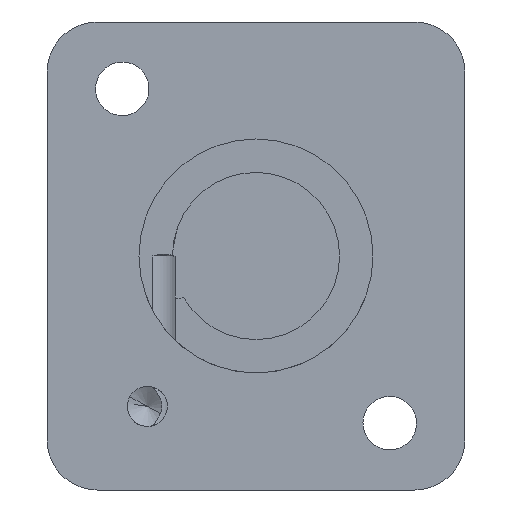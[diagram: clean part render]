
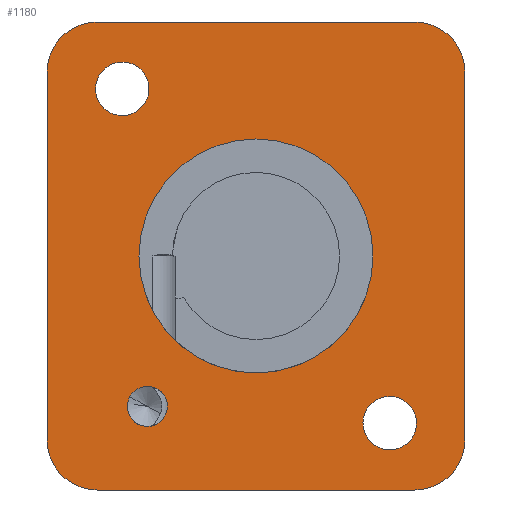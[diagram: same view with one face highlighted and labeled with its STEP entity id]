
A CAD part, left-side view. The second image highlights one B-rep face of the part: STEP entity #1180.
In plain terms, the highlighted planar face has unit normal (-1, 0, 0).
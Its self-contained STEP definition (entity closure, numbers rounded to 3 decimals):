
#369=AXIS2_PLACEMENT_3D('Circle Axis2P3D',#367,#368,$) ;
#454=AXIS2_PLACEMENT_3D('Circle Axis2P3D',#452,#453,$) ;
#542=AXIS2_PLACEMENT_3D('Circle Axis2P3D',#540,#541,$) ;
#878=AXIS2_PLACEMENT_3D('Circle Axis2P3D',#876,#877,$) ;
#947=AXIS2_PLACEMENT_3D('Circle Axis2P3D',#945,#946,$) ;
#1009=AXIS2_PLACEMENT_3D('Circle Axis2P3D',#1007,#1008,$) ;
#1071=AXIS2_PLACEMENT_3D('Circle Axis2P3D',#1069,#1070,$) ;
#1133=AXIS2_PLACEMENT_3D('Plane Axis2P3D',#1130,#1131,#1132) ;
#1147=AXIS2_PLACEMENT_3D('Circle Axis2P3D',#1145,#1146,$) ;
#1156=AXIS2_PLACEMENT_3D('Circle Axis2P3D',#1154,#1155,$) ;
#1165=AXIS2_PLACEMENT_3D('Circle Axis2P3D',#1163,#1164,$) ;
#364=CARTESIAN_POINT('Vertex',(0.,7.553,-8.425)) ;
#367=CARTESIAN_POINT('Axis2P3D Location',(0.,6.5,-9.)) ;
#371=CARTESIAN_POINT('Vertex',(0.,5.447,-9.575)) ;
#393=CARTESIAN_POINT('Control Point',(0.,9.404,9.233)) ;
#394=CARTESIAN_POINT('Control Point',(0.,9.163,8.792)) ;
#395=CARTESIAN_POINT('Control Point',(0.,8.749,8.445)) ;
#396=CARTESIAN_POINT('Control Point',(0.,8.21,8.287)) ;
#397=CARTESIAN_POINT('Control Point',(0.,7.138,8.423)) ;
#398=CARTESIAN_POINT('Control Point',(0.,6.445,9.251)) ;
#399=CARTESIAN_POINT('Control Point',(0.,6.287,9.79)) ;
#400=CARTESIAN_POINT('Control Point',(0.,6.355,10.326)) ;
#401=CARTESIAN_POINT('Control Point',(0.,6.596,10.767)) ;
#402=CARTESIAN_POINT('Vertex',(0.,6.596,10.767)) ;
#404=CARTESIAN_POINT('Vertex',(0.,9.404,9.233)) ;
#452=CARTESIAN_POINT('Axis2P3D Location',(0.,8.,10.)) ;
#482=CARTESIAN_POINT('Control Point',(0.,-6.596,-10.767)) ;
#483=CARTESIAN_POINT('Control Point',(0.,-6.837,-11.208)) ;
#484=CARTESIAN_POINT('Control Point',(0.,-7.251,-11.555)) ;
#485=CARTESIAN_POINT('Control Point',(0.,-7.79,-11.713)) ;
#486=CARTESIAN_POINT('Control Point',(0.,-8.862,-11.577)) ;
#487=CARTESIAN_POINT('Control Point',(0.,-9.555,-10.749)) ;
#488=CARTESIAN_POINT('Control Point',(0.,-9.713,-10.21)) ;
#489=CARTESIAN_POINT('Control Point',(0.,-9.645,-9.674)) ;
#490=CARTESIAN_POINT('Control Point',(0.,-9.404,-9.233)) ;
#491=CARTESIAN_POINT('Vertex',(0.,-9.404,-9.233)) ;
#493=CARTESIAN_POINT('Vertex',(0.,-6.596,-10.767)) ;
#540=CARTESIAN_POINT('Axis2P3D Location',(0.,-8.,-10.)) ;
#873=CARTESIAN_POINT('Vertex',(0.,-12.5,-11.)) ;
#876=CARTESIAN_POINT('Axis2P3D Location',(0.,-9.5,-11.)) ;
#880=CARTESIAN_POINT('Vertex',(0.,-9.5,-14.)) ;
#911=CARTESIAN_POINT('Vertex',(0.,-12.5,11.)) ;
#914=CARTESIAN_POINT('Line Origine',(0.,-12.5,0.)) ;
#942=CARTESIAN_POINT('Vertex',(0.,-9.5,14.)) ;
#945=CARTESIAN_POINT('Axis2P3D Location',(0.,-9.5,11.)) ;
#973=CARTESIAN_POINT('Vertex',(0.,9.5,14.)) ;
#976=CARTESIAN_POINT('Line Origine',(0.,0.,14.)) ;
#1004=CARTESIAN_POINT('Vertex',(0.,12.5,11.)) ;
#1007=CARTESIAN_POINT('Axis2P3D Location',(0.,9.5,11.)) ;
#1035=CARTESIAN_POINT('Vertex',(0.,12.5,-11.)) ;
#1038=CARTESIAN_POINT('Line Origine',(0.,12.5,0.)) ;
#1066=CARTESIAN_POINT('Vertex',(0.,9.5,-14.)) ;
#1069=CARTESIAN_POINT('Axis2P3D Location',(0.,9.5,-11.)) ;
#1093=CARTESIAN_POINT('Line Origine',(0.,0.,-14.)) ;
#1130=CARTESIAN_POINT('Axis2P3D Location',(0.,0.,0.)) ;
#1145=CARTESIAN_POINT('Axis2P3D Location',(0.,6.5,-9.)) ;
#1154=CARTESIAN_POINT('Axis2P3D Location',(0.,0.,0.)) ;
#1158=CARTESIAN_POINT('Vertex',(0.,7.,0.)) ;
#1160=CARTESIAN_POINT('Vertex',(0.,-7.,0.)) ;
#1163=CARTESIAN_POINT('Axis2P3D Location',(0.,0.,0.)) ;
#368=DIRECTION('Axis2P3D Direction',(1.,0.,-0.)) ;
#453=DIRECTION('Axis2P3D Direction',(-1.,0.,-0.)) ;
#541=DIRECTION('Axis2P3D Direction',(-1.,0.,-0.)) ;
#877=DIRECTION('Axis2P3D Direction',(1.,0.,0.)) ;
#915=DIRECTION('Vector Direction',(0.,0.,1.)) ;
#946=DIRECTION('Axis2P3D Direction',(1.,0.,-0.)) ;
#977=DIRECTION('Vector Direction',(0.,1.,0.)) ;
#1008=DIRECTION('Axis2P3D Direction',(1.,-0.,0.)) ;
#1039=DIRECTION('Vector Direction',(0.,0.,-1.)) ;
#1070=DIRECTION('Axis2P3D Direction',(1.,0.,0.)) ;
#1094=DIRECTION('Vector Direction',(0.,-1.,0.)) ;
#1131=DIRECTION('Axis2P3D Direction',(1.,0.,0.)) ;
#1132=DIRECTION('Axis2P3D XDirection',(0.,1.,0.)) ;
#1146=DIRECTION('Axis2P3D Direction',(1.,0.,0.)) ;
#1155=DIRECTION('Axis2P3D Direction',(1.,0.,0.)) ;
#1164=DIRECTION('Axis2P3D Direction',(1.,0.,0.)) ;
#916=VECTOR('Line Direction',#915,1.) ;
#978=VECTOR('Line Direction',#977,1.) ;
#1040=VECTOR('Line Direction',#1039,1.) ;
#1095=VECTOR('Line Direction',#1094,1.) ;
#1136=ORIENTED_EDGE('',*,*,#882,.F.) ;
#1137=ORIENTED_EDGE('',*,*,#918,.F.) ;
#1138=ORIENTED_EDGE('',*,*,#949,.F.) ;
#1139=ORIENTED_EDGE('',*,*,#980,.F.) ;
#1140=ORIENTED_EDGE('',*,*,#1011,.F.) ;
#1141=ORIENTED_EDGE('',*,*,#1042,.F.) ;
#1142=ORIENTED_EDGE('',*,*,#1073,.F.) ;
#1143=ORIENTED_EDGE('',*,*,#1097,.F.) ;
#1151=ORIENTED_EDGE('',*,*,#373,.T.) ;
#1152=ORIENTED_EDGE('',*,*,#1149,.T.) ;
#1169=ORIENTED_EDGE('',*,*,#1162,.T.) ;
#1170=ORIENTED_EDGE('',*,*,#1167,.T.) ;
#1173=ORIENTED_EDGE('',*,*,#456,.T.) ;
#1174=ORIENTED_EDGE('',*,*,#406,.T.) ;
#1177=ORIENTED_EDGE('',*,*,#544,.T.) ;
#1178=ORIENTED_EDGE('',*,*,#495,.T.) ;
#1153=FACE_BOUND('',#1150,.T.) ;
#1171=FACE_BOUND('',#1168,.T.) ;
#1175=FACE_BOUND('',#1172,.T.) ;
#1179=FACE_BOUND('',#1176,.T.) ;
#1180=ADVANCED_FACE('\X2\96F64EF651E04F554F53\X0\',(#1144,#1153,#1171,#1175,#1179),#1134,.F.) ;
#392=B_SPLINE_CURVE_WITH_KNOTS('',5,(#393,#394,#395,#396,#397,#398,#399,#400,#401),.UNSPECIFIED.,.F.,.U.,(6,3,6),(-2.513,0.,2.513),.UNSPECIFIED.) ;
#481=B_SPLINE_CURVE_WITH_KNOTS('',5,(#482,#483,#484,#485,#486,#487,#488,#489,#490),.UNSPECIFIED.,.F.,.U.,(6,3,6),(-2.513,0.,2.513),.UNSPECIFIED.) ;
#370=CIRCLE('generated circle',#369,1.2) ;
#455=CIRCLE('generated circle',#454,1.6) ;
#543=CIRCLE('generated circle',#542,1.6) ;
#879=CIRCLE('generated circle',#878,3.) ;
#948=CIRCLE('generated circle',#947,3.) ;
#1010=CIRCLE('generated circle',#1009,3.) ;
#1072=CIRCLE('generated circle',#1071,3.) ;
#1148=CIRCLE('generated circle',#1147,1.2) ;
#1157=CIRCLE('generated circle',#1156,7.) ;
#1166=CIRCLE('generated circle',#1165,7.) ;
#373=EDGE_CURVE('',#372,#365,#370,.T.) ;
#406=EDGE_CURVE('',#403,#405,#392,.F.) ;
#456=EDGE_CURVE('',#405,#403,#455,.F.) ;
#495=EDGE_CURVE('',#492,#494,#481,.F.) ;
#544=EDGE_CURVE('',#494,#492,#543,.F.) ;
#882=EDGE_CURVE('',#874,#881,#879,.T.) ;
#918=EDGE_CURVE('',#912,#874,#917,.F.) ;
#949=EDGE_CURVE('',#943,#912,#948,.T.) ;
#980=EDGE_CURVE('',#974,#943,#979,.F.) ;
#1011=EDGE_CURVE('',#1005,#974,#1010,.T.) ;
#1042=EDGE_CURVE('',#1036,#1005,#1041,.F.) ;
#1073=EDGE_CURVE('',#1067,#1036,#1072,.T.) ;
#1097=EDGE_CURVE('',#881,#1067,#1096,.F.) ;
#1149=EDGE_CURVE('',#365,#372,#1148,.T.) ;
#1162=EDGE_CURVE('',#1159,#1161,#1157,.T.) ;
#1167=EDGE_CURVE('',#1161,#1159,#1166,.T.) ;
#1135=EDGE_LOOP('',(#1136,#1137,#1138,#1139,#1140,#1141,#1142,#1143)) ;
#1150=EDGE_LOOP('',(#1151,#1152)) ;
#1168=EDGE_LOOP('',(#1169,#1170)) ;
#1172=EDGE_LOOP('',(#1173,#1174)) ;
#1176=EDGE_LOOP('',(#1177,#1178)) ;
#1144=FACE_OUTER_BOUND('',#1135,.T.) ;
#917=LINE('Line',#914,#916) ;
#979=LINE('Line',#976,#978) ;
#1041=LINE('Line',#1038,#1040) ;
#1096=LINE('Line',#1093,#1095) ;
#1134=PLANE('Plane',#1133) ;
#365=VERTEX_POINT('',#364) ;
#372=VERTEX_POINT('',#371) ;
#403=VERTEX_POINT('',#402) ;
#405=VERTEX_POINT('',#404) ;
#492=VERTEX_POINT('',#491) ;
#494=VERTEX_POINT('',#493) ;
#874=VERTEX_POINT('',#873) ;
#881=VERTEX_POINT('',#880) ;
#912=VERTEX_POINT('',#911) ;
#943=VERTEX_POINT('',#942) ;
#974=VERTEX_POINT('',#973) ;
#1005=VERTEX_POINT('',#1004) ;
#1036=VERTEX_POINT('',#1035) ;
#1067=VERTEX_POINT('',#1066) ;
#1159=VERTEX_POINT('',#1158) ;
#1161=VERTEX_POINT('',#1160) ;
